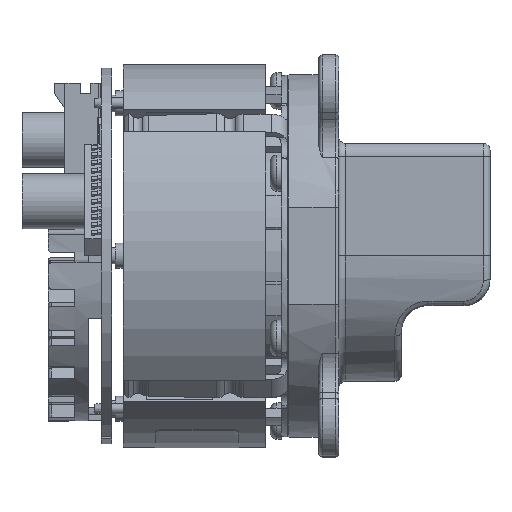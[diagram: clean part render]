
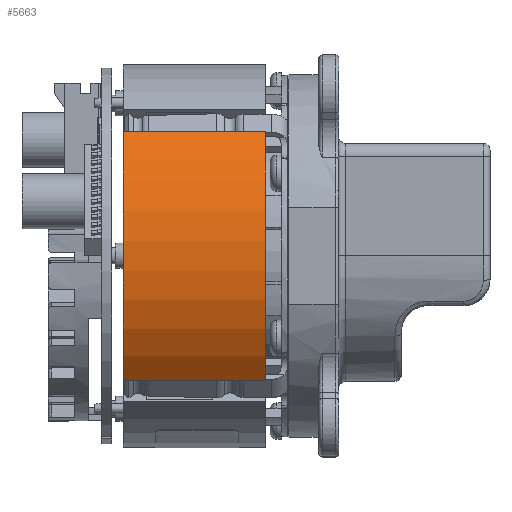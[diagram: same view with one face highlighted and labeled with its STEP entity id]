
A CAD part, top view. The second image highlights one B-rep face of the part: STEP entity #5663.
In plain terms, the highlighted cylindrical face has radius 29.05 mm (diameter 58.1 mm), a partial arc.
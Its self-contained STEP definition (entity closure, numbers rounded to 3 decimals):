
#1123 = AXIS2_PLACEMENT_3D ( 'NONE', #1957, #11203, #3057 ) ;
#1483 = EDGE_CURVE ( 'NONE', #8603, #49507, #36537, .T. ) ;
#1858 = ORIENTED_EDGE ( 'NONE', *, *, #44766, .F. ) ;
#1957 = CARTESIAN_POINT ( 'NONE',  ( 0., 0., 0. ) ) ;
#3057 = DIRECTION ( 'NONE',  ( 1., 0., 0. ) ) ;
#4141 = DIRECTION ( 'NONE',  ( 0., 0., -1. ) ) ;
#4828 = EDGE_LOOP ( 'NONE', ( #1858, #39731, #14017, #42867 ) ) ;
#5663 = ADVANCED_FACE ( 'NONE', ( #44687 ), #45287, .T. ) ;
#7794 = DIRECTION ( 'NONE',  ( 0., 0., 1. ) ) ;
#8405 = VERTEX_POINT ( 'NONE', #13831 ) ;
#8603 = VERTEX_POINT ( 'NONE', #58792 ) ;
#11203 = DIRECTION ( 'NONE',  ( 0., 0., 1. ) ) ;
#11597 = CIRCLE ( 'NONE', #1123, 29.05 ) ;
#12788 = LINE ( 'NONE', #40750, #17751 ) ;
#13831 = CARTESIAN_POINT ( 'NONE',  ( -18.851, 22.103, 0. ) ) ;
#14017 = ORIENTED_EDGE ( 'NONE', *, *, #29384, .T. ) ;
#15636 = CARTESIAN_POINT ( 'NONE',  ( -18.851, 22.103, -21.5 ) ) ;
#17351 = DIRECTION ( 'NONE',  ( 0., 0., 1. ) ) ;
#17751 = VECTOR ( 'NONE', #4141, 1000. ) ;
#27235 = DIRECTION ( 'NONE',  ( 0., 0., -1. ) ) ;
#27563 = CARTESIAN_POINT ( 'NONE',  ( 18.851, 22.103, -21.5 ) ) ;
#28116 = AXIS2_PLACEMENT_3D ( 'NONE', #54006, #7794, #53424 ) ;
#29384 = EDGE_CURVE ( 'NONE', #49507, #39078, #48255, .T. ) ;
#32212 = EDGE_CURVE ( 'NONE', #8405, #39078, #12788, .T. ) ;
#36537 = LINE ( 'NONE', #45836, #56355 ) ;
#39078 = VERTEX_POINT ( 'NONE', #15636 ) ;
#39731 = ORIENTED_EDGE ( 'NONE', *, *, #1483, .T. ) ;
#40190 = CARTESIAN_POINT ( 'NONE',  ( 0., 0., -21.5 ) ) ;
#40750 = CARTESIAN_POINT ( 'NONE',  ( -18.851, 22.103, -21.5 ) ) ;
#42867 = ORIENTED_EDGE ( 'NONE', *, *, #32212, .F. ) ;
#43967 = AXIS2_PLACEMENT_3D ( 'NONE', #40190, #17351, #49499 ) ;
#44687 = FACE_OUTER_BOUND ( 'NONE', #4828, .T. ) ;
#44766 = EDGE_CURVE ( 'NONE', #8603, #8405, #11597, .T. ) ;
#45287 = CYLINDRICAL_SURFACE ( 'NONE', #43967, 29.05 ) ;
#45836 = CARTESIAN_POINT ( 'NONE',  ( 18.851, 22.103, -21.5 ) ) ;
#48255 = CIRCLE ( 'NONE', #28116, 29.05 ) ;
#49499 = DIRECTION ( 'NONE',  ( 1., 0., 0. ) ) ;
#49507 = VERTEX_POINT ( 'NONE', #27563 ) ;
#53424 = DIRECTION ( 'NONE',  ( 1., 0., 0. ) ) ;
#54006 = CARTESIAN_POINT ( 'NONE',  ( 0., 0., -21.5 ) ) ;
#56355 = VECTOR ( 'NONE', #27235, 1000. ) ;
#58792 = CARTESIAN_POINT ( 'NONE',  ( 18.851, 22.103, 0. ) ) ;
